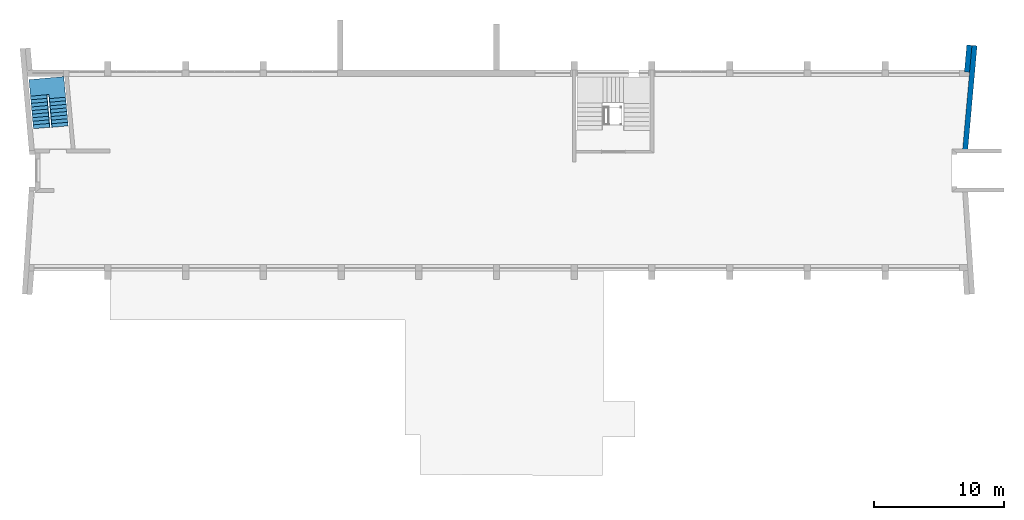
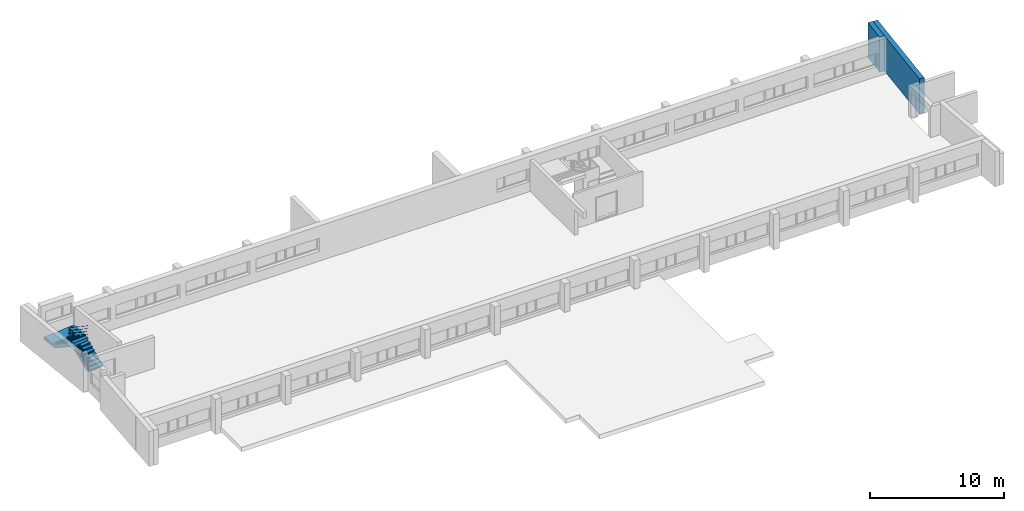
# One storey, part 6 of 10: 2 walls, 1 stair.
"""IFC2X3 building model written with IfcOpenShell, lengths in millimetres."""

import ifcopenshell
import ifcopenshell.guid

model = None  # the IFC model being written
_history = None  # IfcOwnerHistory: only IFC2X3 demands one
_inside = {}  # id of a spatial element -> (the spatial element, [elements in it])
_under = {}  # id of a project, library or spatial element -> (it, [spatial elements below it])
_declared = {}  # id of a project -> (the project, [libraries it declares])
_typed = {}  # id of a type object -> (the type object, [elements of that type])
_made_of = {}  # id of a material, layer set ... -> (it, [elements and type objects made of it])


def new_model(schema):
    """Start an empty IFC model of exactly this schema.

    Asked for "IFC4X3", IfcOpenShell would pick the latest addendum, in which some entities
    have other attributes; the version numbers below select the first issue.
    IFC2X3 requires an IfcOwnerHistory on every rooted entity: one is made here for all.
    """
    global model, _history
    if schema == "IFC4X3":
        model = ifcopenshell.file(schema_version=(4, 3, 0, 0))
    else:
        model = ifcopenshell.file(schema=schema)
    _inside.clear()
    _under.clear()
    _declared.clear()
    _typed.clear()
    _made_of.clear()
    _history = None
    if model.schema == "IFC2X3":
        org = make("IfcOrganization", Name="unknown")
        user = make(
            "IfcPersonAndOrganization",
            ThePerson=make("IfcPerson", FamilyName="unknown"),
            TheOrganization=org,
        )
        app = make(
            "IfcApplication",
            ApplicationDeveloper=org,
            Version="unknown",
            ApplicationFullName="unknown",
            ApplicationIdentifier="unknown",
        )
        _history = make(
            "IfcOwnerHistory",
            OwningUser=user,
            OwningApplication=app,
            ChangeAction="ADDED",
            CreationDate=0,
        )
    return model


def make(cls, **values):
    """One entity of the class cls with the attributes given. An attribute that is None is left unset."""
    return model.create_entity(
        cls, **{name: value for name, value in values.items() if value is not None}
    )


def entity(cls, *values):
    """Any entity or typed value of the class cls, its attributes in the order of the schema. None: left unset."""
    e = model.create_entity(cls)
    for i, value in enumerate(values):
        if value is not None:
            e[i] = value
    return e


def rooted(cls, **values):
    """An entity with a GlobalId (a new one), such as an element, a storey or a relation."""
    return make(cls, GlobalId=ifcopenshell.guid.new(), OwnerHistory=_history, **values)


def si_unit(unit_type, name, prefix=None):
    """IfcSIUnit, for example si_unit("LENGTHUNIT", "METRE", prefix="MILLI")."""
    return make("IfcSIUnit", UnitType=unit_type, Prefix=prefix, Name=name)


def converted_unit(unit_type, name, factor, base, dimensions=None, offset=None):
    """IfcConversionBasedUnit, such as the inch: factor (a typed value) times the base unit."""
    return make(
        "IfcConversionBasedUnit"
        if offset is None
        else "IfcConversionBasedUnitWithOffset",
        ConversionOffset=offset,
        Dimensions=None
        if dimensions is None
        else entity("IfcDimensionalExponents", *dimensions),
        UnitType=unit_type,
        Name=name,
        ConversionFactor=make(
            "IfcMeasureWithUnit", ValueComponent=factor, UnitComponent=base
        ),
    )


def money_unit(currency):
    """IfcMonetaryUnit."""
    return make("IfcMonetaryUnit", Currency=currency)


def assignment(units):
    """IfcUnitAssignment: the units of a project."""
    return None if units is None else make("IfcUnitAssignment", Units=units)


def point(xyz):
    """IfcCartesianPoint."""
    return None if xyz is None else make("IfcCartesianPoint", Coordinates=xyz)


def direction(xyz):
    """IfcDirection."""
    return None if xyz is None else make("IfcDirection", DirectionRatios=xyz)


def frame(location, z_axis=None, x_axis=None):
    """IfcAxis2Placement3D, a coordinate frame: its origin and axes. An axis left out is left unset."""
    return make(
        "IfcAxis2Placement3D",
        Location=point(location),
        Axis=direction(z_axis),
        RefDirection=direction(x_axis),
    )


def origin_with_axes():
    """The frame at (0, 0, 0) with the z axis (0, 0, 1) and the x axis (1, 0, 0) written out."""
    return frame((0.0, 0.0, 0.0), z_axis=(0.0, 0.0, 1.0), x_axis=(1.0, 0.0, 0.0))


def place(relative_to, where):
    """IfcLocalPlacement: puts the frame where relative to a parent placement (None: the world)."""
    return make(
        "IfcLocalPlacement", PlacementRelTo=relative_to, RelativePlacement=where
    )


def context(
    kind, dimensions, precision=None, world=None, true_north=None, identifier=None
):
    """IfcGeometricRepresentationContext, for example the 3D "Model" context."""
    return make(
        "IfcGeometricRepresentationContext",
        ContextIdentifier=identifier,
        ContextType=kind,
        CoordinateSpaceDimension=dimensions,
        Precision=precision,
        WorldCoordinateSystem=world,
        TrueNorth=true_north,
    )


def subcontext(parent, identifier, kind, view, scale=None):
    """IfcGeometricRepresentationSubContext, for example "Body" below "Model"."""
    return make(
        "IfcGeometricRepresentationSubContext",
        ContextIdentifier=identifier,
        ContextType=kind,
        ParentContext=parent,
        TargetScale=scale,
        TargetView=view,
    )


def project(units=None, contexts=None):
    """IfcProject with its units and contexts."""
    return rooted(
        "IfcProject",
        Name="project",
        RepresentationContexts=contexts,
        UnitsInContext=assignment(units),
    )


def spatial(cls, under=None, at=None, **own):
    """A site, building, storey or space (cls), placed at a placement, below another one or the project."""
    s = rooted(cls, ObjectPlacement=at, **own)
    if under is not None:
        _under.setdefault(under.id(), (under, []))[1].append(s)
    return s


def polyline(points):
    """IfcPolyline through the points."""
    return make("IfcPolyline", Points=[point(p) for p in points])


def outline(outer, holes=None, kind="AREA"):
    """IfcArbitraryClosedProfileDef: a profile drawn as a closed curve; with holes, ...WithVoids."""
    if holes is None:
        return make("IfcArbitraryClosedProfileDef", ProfileType=kind, OuterCurve=outer)
    return make(
        "IfcArbitraryProfileDefWithVoids",
        ProfileType=kind,
        OuterCurve=outer,
        InnerCurves=holes,
    )


def extrude(swept, where, along, depth):
    """IfcExtrudedAreaSolid: the profile swept, set in the frame where, extruded along a direction by depth."""
    return make(
        "IfcExtrudedAreaSolid",
        SweptArea=swept,
        Position=where,
        ExtrudedDirection=direction(along),
        Depth=depth,
    )


def faces_of(points, faces, orient=None, outer=None):
    """IfcFace entities. A face is a list of loops; a loop is a list of indices into points, from 0.

    orient and outer hold one flag for each loop. By default every Orientation is true, the
    first loop of a face is its IfcFaceOuterBound and the others are IfcFaceBound.
    """
    made = []
    for i, loops in enumerate(faces):
        bounds = []
        for j, loop in enumerate(loops):
            is_outer = j == 0 if outer is None else outer[i][j]
            bounds.append(
                make(
                    "IfcFaceOuterBound" if is_outer else "IfcFaceBound",
                    Bound=make("IfcPolyLoop", Polygon=[points[k] for k in loop]),
                    Orientation=True if orient is None else orient[i][j],
                )
            )
        made.append(make("IfcFace", Bounds=bounds))
    return made


def faceted_brep(points, faces, orient=None, outer=None, voids=None):
    """IfcFacetedBrep: a solid bounded by flat faces; with voids (closed shells), ...WithVoids."""
    shared = [point(p) for p in points]
    hull = make("IfcClosedShell", CfsFaces=faces_of(shared, faces, orient, outer))
    if voids is None:
        return make("IfcFacetedBrep", Outer=hull)
    return make(
        "IfcFacetedBrepWithVoids",
        Outer=hull,
        Voids=[
            make(cls, CfsFaces=faces_of(shared, fs, o, b)) for cls, fs, o, b in voids
        ],
    )


def shape(context_of_items, identifier, shape_type, items):
    """IfcShapeRepresentation: the items that make up one representation, for example the "Body"."""
    return make(
        "IfcShapeRepresentation",
        ContextOfItems=context_of_items,
        RepresentationIdentifier=identifier,
        RepresentationType=shape_type,
        Items=items,
    )


def source(mapping_origin, context_of_items, identifier, shape_type, items):
    """IfcRepresentationMap: a shape defined once, which mapped items show again and again."""
    return make(
        "IfcRepresentationMap",
        MappingOrigin=mapping_origin,
        MappedRepresentation=shape(context_of_items, identifier, shape_type, items),
    )


def transform(
    local_origin,
    x_axis=None,
    y_axis=None,
    z_axis=None,
    scale=None,
    scale2=None,
    scale3=None,
    uniform=True,
):
    """IfcCartesianTransformationOperator3D, or its non-uniform kind. x_axis, y_axis, z_axis: its Axis1, 2, 3."""
    if uniform:
        return make(
            "IfcCartesianTransformationOperator3D",
            Axis1=direction(x_axis),
            Axis2=direction(y_axis),
            LocalOrigin=point(local_origin),
            Scale=scale,
            Axis3=direction(z_axis),
        )
    return make(
        "IfcCartesianTransformationOperator3DnonUniform",
        Axis1=direction(x_axis),
        Axis2=direction(y_axis),
        LocalOrigin=point(local_origin),
        Scale=scale,
        Axis3=direction(z_axis),
        Scale2=scale2,
        Scale3=scale3,
    )


def mapped(mapping_source, mapping_target):
    """IfcMappedItem: shows the shape of a source again, moved by a transform."""
    return make(
        "IfcMappedItem", MappingSource=mapping_source, MappingTarget=mapping_target
    )


def material(Name=None, Category=None):
    """IfcMaterial."""
    return make("IfcMaterial", Name=Name, Category=Category)


def layer(
    of_material, thickness, ventilated=None, Name=None, Category=None, Priority=None
):
    """IfcMaterialLayer: one layer of a wall or slab, of a material (None: an air gap)."""
    return make(
        "IfcMaterialLayer",
        Material=of_material,
        LayerThickness=thickness,
        IsVentilated=ventilated,
        Name=Name,
        Category=Category,
        Priority=Priority,
    )


def layer_set(layers, Name=None):
    """IfcMaterialLayerSet."""
    return make("IfcMaterialLayerSet", MaterialLayers=layers, LayerSetName=Name)


def layer_usage(for_layer_set, set_direction, sense, offset, extent=None):
    """IfcMaterialLayerSetUsage: how a layer set lies in its element."""
    return make(
        "IfcMaterialLayerSetUsage",
        ForLayerSet=for_layer_set,
        LayerSetDirection=set_direction,
        DirectionSense=sense,
        OffsetFromReferenceLine=offset,
        ReferenceExtent=extent,
    )


def made_of(thing, what):
    """Note that an element or type object is made of a material, layer set ...; save() writes the relation."""
    if what is not None:
        _made_of.setdefault(what.id(), (what, []))[1].append(thing)
    return thing


def type_object(cls, material=None, **own):
    """A type object (cls), such as IfcWallType, which elements share."""
    return made_of(rooted(cls, **own), material)


def element(
    cls,
    number,
    at=None,
    inside=None,
    cuts=None,
    type_object=None,
    material=None,
    context=None,
    identifier="Body",
    shape_type=None,
    held_by="IfcProductDefinitionShape",
    body=None,
    shapes=None,
    **own,
):
    """One element of the class cls, such as IfcWall. Its Tag is "e" and its number.

    at: its placement. inside: the storey or other place that contains it. cuts: it is an
    opening in that element (IfcRelVoidsElement). A single representation is given by context,
    identifier, shape_type and body (its items); several are given by shapes. held_by: the class
    of the entity that holds the representations. save() writes the other relations.
    """
    e = rooted(cls, Tag="e%d" % number, ObjectPlacement=at, **own)
    if body is not None:
        shapes = [shape(context, identifier, shape_type, body)]
    if shapes is not None:
        e.Representation = make(held_by, Representations=shapes)
    if inside is not None:
        _inside.setdefault(inside.id(), (inside, []))[1].append(e)
    if cuts is not None:
        rooted(
            "IfcRelVoidsElement", RelatingBuildingElement=cuts, RelatedOpeningElement=e
        )
    if type_object is not None:
        _typed.setdefault(type_object.id(), (type_object, []))[1].append(e)
    return made_of(e, material)


def aggregate(whole, parts):
    """IfcRelAggregates: a whole, such as a stair, and the parts it consists of."""
    return rooted("IfcRelAggregates", RelatingObject=whole, RelatedObjects=parts)


def save(model, path):
    """Write the relations noted so far, then the file.

    IfcRelAggregates (storeys below a building ...), IfcRelContainedInSpatialStructure (elements
    in a storey), IfcRelDefinesByType, IfcRelAssociatesMaterial and IfcRelDeclares: one each for
    every whole, place, type object, material and project.
    """
    for whole, parts in _under.values():
        aggregate(whole, parts)
    for where, things in _inside.values():
        rooted(
            "IfcRelContainedInSpatialStructure",
            RelatedElements=things,
            RelatingStructure=where,
        )
    for kind, things in _typed.values():
        rooted("IfcRelDefinesByType", RelatedObjects=things, RelatingType=kind)
    for what, things in _made_of.values():
        rooted("IfcRelAssociatesMaterial", RelatedObjects=things, RelatingMaterial=what)
    for by, libraries in _declared.values():
        rooted("IfcRelDeclares", RelatingContext=by, RelatedDefinitions=libraries)
    model.write(path)


model = new_model("IFC2X3")

# Units and contexts
model_context = context("Model", 3, precision=1e-05, world=origin_with_axes(), true_north=direction((0.0, 1.0)))
body_context = subcontext(model_context, "Body", "Model", "MODEL_VIEW")
ifc_project = project(units=[si_unit("LENGTHUNIT", "METRE", prefix="MILLI"), si_unit("AREAUNIT", "SQUARE_METRE"), si_unit("VOLUMEUNIT", "CUBIC_METRE"), converted_unit("PLANEANGLEUNIT", "DEGREE", entity("IfcPlaneAngleMeasure", 0.0174532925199), si_unit("PLANEANGLEUNIT", "RADIAN"), dimensions=[0, 0, 0, 0, 0, 0, 0]), si_unit("SOLIDANGLEUNIT", "STERADIAN"), money_unit("USD"), converted_unit("TIMEUNIT", "Year", entity("IfcTimeMeasure", 31556926.0), si_unit("TIMEUNIT", "SECOND"), dimensions=[0, 0, 0, 0, 0, 0, 0]), si_unit("MASSUNIT", "GRAM"), si_unit("THERMODYNAMICTEMPERATUREUNIT", "DEGREE_CELSIUS"), si_unit("LUMINOUSINTENSITYUNIT", "LUMEN")], contexts=[model_context])

# Site, building, storey
site_placement = place(None, origin_with_axes())
site = spatial("IfcSite", under=ifc_project, at=site_placement, Name="Site", CompositionType="ELEMENT")
building_placement = place(site_placement, origin_with_axes())
building = spatial("IfcBuilding", under=site, at=building_placement, Name="Building", CompositionType="ELEMENT")
storey_placement = place(building_placement, origin_with_axes())
storey = spatial("IfcBuildingStorey", under=building, at=storey_placement, Name="2KORRUS", CompositionType="ELEMENT", Elevation=0.0)

# Walls
ifc_material_1 = material(Name="Olemasolevad seinad tellis, uus viimistlus")
ifc_layer = layer(ifc_material_1, 400.0, ventilated="UNKNOWN")
ifc_layer_set = layer_set([ifc_layer], Name="Olemasolevad seinad tellis, uus viimistlus 400")
ifc_layer_usage_1 = layer_usage(ifc_layer_set, "AXIS2", "POSITIVE", 0.0)
wall_type = type_object("IfcWallType", Name="Olemasolevad seinad tellis, uus viimistlus 400", PredefinedType="NOTDEFINED")
wall_1_placement = place(storey_placement, frame((18220.0063762, -10997.6526712, 0.0), z_axis=(0.0, 0.0, 1.0), x_axis=(0.0895981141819, 0.995978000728, 0.0)))
element("IfcWallStandardCase", 1, at=wall_1_placement, inside=storey, type_object=wall_type, material=ifc_layer_usage_1, Name="vs1", ObjectType="vs1", context=body_context, shape_type="SweptSolid", body=[
    extrude(outline(polyline([(0.0, 0.0), (8262.44926526, 0.0), (8262.44926526, 400.0), (0.0, 400.0), (0.0, 0.0)])), origin_with_axes(), (0.0, 0.0, 1.0), 3200.0),
])
ifc_layer_usage_2 = layer_usage(ifc_layer_set, "AXIS2", "POSITIVE", -400.0)
wall_2_placement = place(storey_placement, frame((17976.4243036, -4776.56621795, 0.0), z_axis=(0.0, 0.0, 1.0), x_axis=(0.0895981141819, 0.995978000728, 0.0)))
element("IfcWallStandardCase", 2, at=wall_2_placement, inside=storey, type_object=wall_type, material=ifc_layer_usage_2, Name="vs1", ObjectType="vs1", context=body_context, shape_type="SweptSolid", body=[
    extrude(outline(polyline([(0.0, -400.0), (2088.20851153, -400.0), (2088.20851153, 0.0), (0.0, 0.0), (0.0, -400.0)])), origin_with_axes(), (0.0, 0.0, 1.0), 3200.0),
])

# Stair
ifc_material_2 = material(Name="50 %")
shared_shape = source(origin_with_axes(), body_context, "Body", "Brep", [
    faceted_brep([(389.572, 0.0, 0.0), (389.572, 1300.0, 0.0), (2561.447, 1300.0, 1340.0), (2561.447, 0.0, 1340.0), (30.0, 0.0, 0.0), (30.0, 1300.0, 0.0), (30.0, 1300.0, 127.778), (307.778, 1300.0, 127.778), (307.778, 1300.0, 305.556), (585.556, 1300.0, 305.556), (585.556, 1300.0, 483.333), (863.333, 1300.0, 483.333), (863.333, 1300.0, 661.111), (1141.111, 1300.0, 661.111), (1141.111, 1300.0, 838.889), (1418.889, 1300.0, 838.889), (1418.889, 1300.0, 1016.667), (1696.667, 1300.0, 1016.667), (1696.667, 1300.0, 1194.444), (1974.444, 1300.0, 1194.444), (1974.444, 1300.0, 1372.222), (2252.222, 1300.0, 1372.222), (2252.222, 1300.0, 1550.0), (2530.0, 1300.0, 1550.0), (3800.0, 1300.0, 1550.0), (3800.0, 1300.0, 1340.0), (3800.0, 0.0, 1340.0), (3800.0, 0.0, 1550.0), (2530.0, 0.0, 1550.0), (2252.222, 0.0, 1550.0), (2252.222, 0.0, 1372.222), (1974.444, 0.0, 1372.222), (1974.444, 0.0, 1194.444), (1696.667, 0.0, 1194.444), (1696.667, 0.0, 1016.667), (1418.889, 0.0, 1016.667), (1418.889, 0.0, 838.889), (1141.111, 0.0, 838.889), (1141.111, 0.0, 661.111), (863.333, 0.0, 661.111), (863.333, 0.0, 483.333), (585.556, 0.0, 483.333), (585.556, 0.0, 305.556), (307.778, 0.0, 305.556), (307.778, 0.0, 127.778), (30.0, 0.0, 127.778)], [[[0, 1, 2, 3]], [[4, 5, 1, 0]], [[1, 5, 6, 7, 8, 9, 10, 11, 12, 13, 14, 15, 16, 17, 18, 19, 20, 21, 22, 23, 24, 25, 2]], [[3, 2, 25, 26]], [[0, 3, 26, 27, 28, 29, 30, 31, 32, 33, 34, 35, 36, 37, 38, 39, 40, 41, 42, 43, 44, 45, 4]], [[45, 6, 5, 4]], [[44, 7, 6, 45]], [[43, 8, 7, 44]], [[42, 9, 8, 43]], [[41, 10, 9, 42]], [[40, 11, 10, 41]], [[39, 12, 11, 40]], [[38, 13, 12, 39]], [[37, 14, 13, 38]], [[36, 15, 14, 37]], [[35, 16, 15, 36]], [[34, 17, 16, 35]], [[33, 18, 17, 34]], [[32, 19, 18, 33]], [[31, 20, 19, 32]], [[30, 21, 20, 31]], [[29, 22, 21, 30]], [[28, 23, 22, 29]], [[27, 24, 23, 28]], [[26, 25, 24, 27]]]),
    faceted_brep([(2500.0, 1300.0, 1550.0), (2500.0, 1400.0, 1550.0), (2500.0, 1400.0, 1340.0), (2500.0, 1300.0, 1340.0), (3800.0, 1300.0, 1550.0), (3800.0, 1400.0, 1550.0), (3800.0, 1400.0, 1340.0), (2561.447, 1400.0, 1340.0), (2561.447, 1300.0, 1340.0), (3800.0, 1300.0, 1340.0)], [[[0, 1, 2, 3]], [[4, 5, 1, 0]], [[1, 5, 6, 7, 2]], [[3, 2, 7, 8]], [[0, 3, 8, 9, 4]], [[9, 6, 5, 4]], [[8, 7, 6, 9]]]),
    faceted_brep([(2500.0, 1400.0, 1550.0), (2500.0, 2700.0, 1550.0), (2500.0, 2700.0, 1340.0), (2500.0, 1400.0, 1340.0), (3800.0, 1400.0, 1550.0), (3800.0, 2700.0, 1550.0), (3800.0, 2700.0, 1340.0), (3800.0, 1400.0, 1340.0)], [[[0, 1, 2, 3]], [[4, 5, 1, 0]], [[1, 5, 6, 2]], [[3, 2, 6, 7]], [[0, 3, 7, 4]], [[7, 6, 5, 4]]]),
    faceted_brep([(2500.0, 1400.0, 1340.0), (2438.553, 1400.0, 1340.0), (2438.553, 2700.0, 1340.0), (2500.0, 2700.0, 1340.0), (2500.0, 1400.0, 1550.0), (2470.0, 1400.0, 1550.0), (2470.0, 1400.0, 1727.778), (2192.222, 1400.0, 1727.778), (2192.222, 1400.0, 1905.556), (1914.444, 1400.0, 1905.556), (1914.444, 1400.0, 2083.333), (1636.667, 1400.0, 2083.333), (1636.667, 1400.0, 2261.111), (1358.889, 1400.0, 2261.111), (1358.889, 1400.0, 2438.889), (1081.111, 1400.0, 2438.889), (1081.111, 1400.0, 2616.667), (803.333, 1400.0, 2616.667), (803.333, 1400.0, 2794.444), (525.556, 1400.0, 2794.444), (525.556, 1400.0, 2972.222), (247.778, 1400.0, 2972.222), (247.778, 1400.0, 3150.0), (0.0, 1400.0, 3150.0), (0.0, 1400.0, 2900.674), (0.0, 2700.0, 2900.674), (0.0, 2700.0, 3150.0), (247.778, 2700.0, 3150.0), (247.778, 2700.0, 2972.222), (525.556, 2700.0, 2972.222), (525.556, 2700.0, 2794.444), (803.333, 2700.0, 2794.444), (803.333, 2700.0, 2616.667), (1081.111, 2700.0, 2616.667), (1081.111, 2700.0, 2438.889), (1358.889, 2700.0, 2438.889), (1358.889, 2700.0, 2261.111), (1636.667, 2700.0, 2261.111), (1636.667, 2700.0, 2083.333), (1914.444, 2700.0, 2083.333), (1914.444, 2700.0, 1905.556), (2192.222, 2700.0, 1905.556), (2192.222, 2700.0, 1727.778), (2470.0, 2700.0, 1727.778), (2470.0, 2700.0, 1550.0), (2500.0, 2700.0, 1550.0)], [[[0, 1, 2, 3]], [[0, 4, 5, 6, 7, 8, 9, 10, 11, 12, 13, 14, 15, 16, 17, 18, 19, 20, 21, 22, 23, 24, 1]], [[1, 24, 25, 2]], [[3, 2, 25, 26, 27, 28, 29, 30, 31, 32, 33, 34, 35, 36, 37, 38, 39, 40, 41, 42, 43, 44, 45]], [[4, 0, 3, 45]], [[5, 4, 45, 44]], [[6, 5, 44, 43]], [[7, 6, 43, 42]], [[8, 7, 42, 41]], [[9, 8, 41, 40]], [[10, 9, 40, 39]], [[11, 10, 39, 38]], [[12, 11, 38, 37]], [[13, 12, 37, 36]], [[14, 13, 36, 35]], [[15, 14, 35, 34]], [[16, 15, 34, 33]], [[17, 16, 33, 32]], [[18, 17, 32, 31]], [[19, 18, 31, 30]], [[20, 19, 30, 29]], [[21, 20, 29, 28]], [[22, 21, 28, 27]], [[23, 22, 27, 26]], [[24, 23, 26, 25]]]),
    faceted_brep([(0.0, 0.0, 0.0), (0.0, 1300.0, 0.0), (30.0, 1300.0, 0.0), (30.0, 0.0, 0.0), (0.0, 0.0, 127.778), (0.0, 1300.0, 127.778), (30.0, 1300.0, 127.778), (30.0, 0.0, 127.778)], [[[0, 1, 2, 3]], [[4, 5, 1, 0]], [[1, 5, 6, 2]], [[3, 2, 6, 7]], [[0, 3, 7, 4]], [[7, 6, 5, 4]]]),
    faceted_brep([(277.778, 0.0, 177.778), (277.778, 1300.0, 177.778), (307.778, 1300.0, 177.778), (307.778, 0.0, 177.778), (277.778, 0.0, 305.556), (277.778, 1300.0, 305.556), (307.778, 1300.0, 305.556), (307.778, 0.0, 305.556)], [[[0, 1, 2, 3]], [[4, 5, 1, 0]], [[1, 5, 6, 2]], [[3, 2, 6, 7]], [[0, 3, 7, 4]], [[7, 6, 5, 4]]]),
    faceted_brep([(555.556, 0.0, 355.556), (555.556, 1300.0, 355.556), (585.556, 1300.0, 355.556), (585.556, 0.0, 355.556), (555.556, 0.0, 483.333), (555.556, 1300.0, 483.333), (585.556, 1300.0, 483.333), (585.556, 0.0, 483.333)], [[[0, 1, 2, 3]], [[4, 5, 1, 0]], [[1, 5, 6, 2]], [[3, 2, 6, 7]], [[0, 3, 7, 4]], [[7, 6, 5, 4]]]),
    faceted_brep([(833.333, 0.0, 533.333), (833.333, 1300.0, 533.333), (863.333, 1300.0, 533.333), (863.333, 0.0, 533.333), (833.333, 0.0, 661.111), (833.333, 1300.0, 661.111), (863.333, 1300.0, 661.111), (863.333, 0.0, 661.111)], [[[0, 1, 2, 3]], [[4, 5, 1, 0]], [[1, 5, 6, 2]], [[3, 2, 6, 7]], [[0, 3, 7, 4]], [[7, 6, 5, 4]]]),
    faceted_brep([(1111.111, 0.0, 711.111), (1111.111, 1300.0, 711.111), (1141.111, 1300.0, 711.111), (1141.111, 0.0, 711.111), (1111.111, 0.0, 838.889), (1111.111, 1300.0, 838.889), (1141.111, 1300.0, 838.889), (1141.111, 0.0, 838.889)], [[[0, 1, 2, 3]], [[4, 5, 1, 0]], [[1, 5, 6, 2]], [[3, 2, 6, 7]], [[0, 3, 7, 4]], [[7, 6, 5, 4]]]),
    faceted_brep([(1388.889, 0.0, 888.889), (1388.889, 1300.0, 888.889), (1418.889, 1300.0, 888.889), (1418.889, 0.0, 888.889), (1388.889, 0.0, 1016.667), (1388.889, 1300.0, 1016.667), (1418.889, 1300.0, 1016.667), (1418.889, 0.0, 1016.667)], [[[0, 1, 2, 3]], [[4, 5, 1, 0]], [[1, 5, 6, 2]], [[3, 2, 6, 7]], [[0, 3, 7, 4]], [[7, 6, 5, 4]]]),
    faceted_brep([(1666.667, 0.0, 1066.667), (1666.667, 1300.0, 1066.667), (1696.667, 1300.0, 1066.667), (1696.667, 0.0, 1066.667), (1666.667, 0.0, 1194.444), (1666.667, 1300.0, 1194.444), (1696.667, 1300.0, 1194.444), (1696.667, 0.0, 1194.444)], [[[0, 1, 2, 3]], [[4, 5, 1, 0]], [[1, 5, 6, 2]], [[3, 2, 6, 7]], [[0, 3, 7, 4]], [[7, 6, 5, 4]]]),
    faceted_brep([(1944.444, 0.0, 1244.444), (1944.444, 1300.0, 1244.444), (1974.444, 1300.0, 1244.444), (1974.444, 0.0, 1244.444), (1944.444, 0.0, 1372.222), (1944.444, 1300.0, 1372.222), (1974.444, 1300.0, 1372.222), (1974.444, 0.0, 1372.222)], [[[0, 1, 2, 3]], [[4, 5, 1, 0]], [[1, 5, 6, 2]], [[3, 2, 6, 7]], [[0, 3, 7, 4]], [[7, 6, 5, 4]]]),
    faceted_brep([(2222.222, 0.0, 1422.222), (2222.222, 1300.0, 1422.222), (2252.222, 1300.0, 1422.222), (2252.222, 0.0, 1422.222), (2222.222, 0.0, 1550.0), (2222.222, 1300.0, 1550.0), (2252.222, 1300.0, 1550.0), (2252.222, 0.0, 1550.0)], [[[0, 1, 2, 3]], [[4, 5, 1, 0]], [[1, 5, 6, 2]], [[3, 2, 6, 7]], [[0, 3, 7, 4]], [[7, 6, 5, 4]]]),
    faceted_brep([(2500.0, 1400.0, 1600.0), (2470.0, 1400.0, 1600.0), (2470.0, 2700.0, 1600.0), (2500.0, 2700.0, 1600.0), (2500.0, 1400.0, 1727.778), (2470.0, 1400.0, 1727.778), (2470.0, 2700.0, 1727.778), (2500.0, 2700.0, 1727.778)], [[[0, 1, 2, 3]], [[0, 4, 5, 1]], [[1, 5, 6, 2]], [[3, 2, 6, 7]], [[4, 0, 3, 7]], [[5, 4, 7, 6]]]),
    faceted_brep([(2222.222, 1400.0, 1777.778), (2192.222, 1400.0, 1777.778), (2192.222, 2700.0, 1777.778), (2222.222, 2700.0, 1777.778), (2222.222, 1400.0, 1905.556), (2192.222, 1400.0, 1905.556), (2192.222, 2700.0, 1905.556), (2222.222, 2700.0, 1905.556)], [[[0, 1, 2, 3]], [[0, 4, 5, 1]], [[1, 5, 6, 2]], [[3, 2, 6, 7]], [[4, 0, 3, 7]], [[5, 4, 7, 6]]]),
    faceted_brep([(1944.444, 1400.0, 1955.556), (1914.444, 1400.0, 1955.556), (1914.444, 2700.0, 1955.556), (1944.444, 2700.0, 1955.556), (1944.444, 1400.0, 2083.333), (1914.444, 1400.0, 2083.333), (1914.444, 2700.0, 2083.333), (1944.444, 2700.0, 2083.333)], [[[0, 1, 2, 3]], [[0, 4, 5, 1]], [[1, 5, 6, 2]], [[3, 2, 6, 7]], [[4, 0, 3, 7]], [[5, 4, 7, 6]]]),
    faceted_brep([(1666.667, 1400.0, 2133.333), (1636.667, 1400.0, 2133.333), (1636.667, 2700.0, 2133.333), (1666.667, 2700.0, 2133.333), (1666.667, 1400.0, 2261.111), (1636.667, 1400.0, 2261.111), (1636.667, 2700.0, 2261.111), (1666.667, 2700.0, 2261.111)], [[[0, 1, 2, 3]], [[0, 4, 5, 1]], [[1, 5, 6, 2]], [[3, 2, 6, 7]], [[4, 0, 3, 7]], [[5, 4, 7, 6]]]),
    faceted_brep([(1388.889, 1400.0, 2311.111), (1358.889, 1400.0, 2311.111), (1358.889, 2700.0, 2311.111), (1388.889, 2700.0, 2311.111), (1388.889, 1400.0, 2438.889), (1358.889, 1400.0, 2438.889), (1358.889, 2700.0, 2438.889), (1388.889, 2700.0, 2438.889)], [[[0, 1, 2, 3]], [[0, 4, 5, 1]], [[1, 5, 6, 2]], [[3, 2, 6, 7]], [[4, 0, 3, 7]], [[5, 4, 7, 6]]]),
    faceted_brep([(1111.111, 1400.0, 2488.889), (1081.111, 1400.0, 2488.889), (1081.111, 2700.0, 2488.889), (1111.111, 2700.0, 2488.889), (1111.111, 1400.0, 2616.667), (1081.111, 1400.0, 2616.667), (1081.111, 2700.0, 2616.667), (1111.111, 2700.0, 2616.667)], [[[0, 1, 2, 3]], [[0, 4, 5, 1]], [[1, 5, 6, 2]], [[3, 2, 6, 7]], [[4, 0, 3, 7]], [[5, 4, 7, 6]]]),
    faceted_brep([(833.333, 1400.0, 2666.667), (803.333, 1400.0, 2666.667), (803.333, 2700.0, 2666.667), (833.333, 2700.0, 2666.667), (833.333, 1400.0, 2794.444), (803.333, 1400.0, 2794.444), (803.333, 2700.0, 2794.444), (833.333, 2700.0, 2794.444)], [[[0, 1, 2, 3]], [[0, 4, 5, 1]], [[1, 5, 6, 2]], [[3, 2, 6, 7]], [[4, 0, 3, 7]], [[5, 4, 7, 6]]]),
    faceted_brep([(555.556, 1400.0, 2844.444), (525.556, 1400.0, 2844.444), (525.556, 2700.0, 2844.444), (555.556, 2700.0, 2844.444), (555.556, 1400.0, 2972.222), (525.556, 1400.0, 2972.222), (525.556, 2700.0, 2972.222), (555.556, 2700.0, 2972.222)], [[[0, 1, 2, 3]], [[0, 4, 5, 1]], [[1, 5, 6, 2]], [[3, 2, 6, 7]], [[4, 0, 3, 7]], [[5, 4, 7, 6]]]),
    faceted_brep([(277.778, 1400.0, 3022.222), (247.778, 1400.0, 3022.222), (247.778, 2700.0, 3022.222), (277.778, 2700.0, 3022.222), (277.778, 1400.0, 3150.0), (247.778, 1400.0, 3150.0), (247.778, 2700.0, 3150.0), (277.778, 2700.0, 3150.0)], [[[0, 1, 2, 3]], [[0, 4, 5, 1]], [[1, 5, 6, 2]], [[3, 2, 6, 7]], [[4, 0, 3, 7]], [[5, 4, 7, 6]]]),
    faceted_brep([(-20.0, 0.0, 127.778), (-20.0, 1300.0, 127.778), (307.778, 1300.0, 127.778), (307.778, 0.0, 127.778), (-20.0, 0.0, 177.778), (-20.0, 1300.0, 177.778), (307.778, 1300.0, 177.778), (307.778, 0.0, 177.778)], [[[0, 1, 2, 3]], [[4, 5, 1, 0]], [[1, 5, 6, 2]], [[3, 2, 6, 7]], [[0, 3, 7, 4]], [[7, 6, 5, 4]]]),
    faceted_brep([(257.778, 0.0, 305.556), (257.778, 1300.0, 305.556), (585.556, 1300.0, 305.556), (585.556, 0.0, 305.556), (257.778, 0.0, 355.556), (257.778, 1300.0, 355.556), (585.556, 1300.0, 355.556), (585.556, 0.0, 355.556)], [[[0, 1, 2, 3]], [[4, 5, 1, 0]], [[1, 5, 6, 2]], [[3, 2, 6, 7]], [[0, 3, 7, 4]], [[7, 6, 5, 4]]]),
    faceted_brep([(535.556, 0.0, 483.333), (535.556, 1300.0, 483.333), (863.333, 1300.0, 483.333), (863.333, 0.0, 483.333), (535.556, 0.0, 533.333), (535.556, 1300.0, 533.333), (863.333, 1300.0, 533.333), (863.333, 0.0, 533.333)], [[[0, 1, 2, 3]], [[4, 5, 1, 0]], [[1, 5, 6, 2]], [[3, 2, 6, 7]], [[0, 3, 7, 4]], [[7, 6, 5, 4]]]),
    faceted_brep([(813.333, 0.0, 661.111), (813.333, 1300.0, 661.111), (1141.111, 1300.0, 661.111), (1141.111, 0.0, 661.111), (813.333, 0.0, 711.111), (813.333, 1300.0, 711.111), (1141.111, 1300.0, 711.111), (1141.111, 0.0, 711.111)], [[[0, 1, 2, 3]], [[4, 5, 1, 0]], [[1, 5, 6, 2]], [[3, 2, 6, 7]], [[0, 3, 7, 4]], [[7, 6, 5, 4]]]),
    faceted_brep([(1091.111, 0.0, 838.889), (1091.111, 1300.0, 838.889), (1418.889, 1300.0, 838.889), (1418.889, 0.0, 838.889), (1091.111, 0.0, 888.889), (1091.111, 1300.0, 888.889), (1418.889, 1300.0, 888.889), (1418.889, 0.0, 888.889)], [[[0, 1, 2, 3]], [[4, 5, 1, 0]], [[1, 5, 6, 2]], [[3, 2, 6, 7]], [[0, 3, 7, 4]], [[7, 6, 5, 4]]]),
    faceted_brep([(1368.889, 0.0, 1016.667), (1368.889, 1300.0, 1016.667), (1696.667, 1300.0, 1016.667), (1696.667, 0.0, 1016.667), (1368.889, 0.0, 1066.667), (1368.889, 1300.0, 1066.667), (1696.667, 1300.0, 1066.667), (1696.667, 0.0, 1066.667)], [[[0, 1, 2, 3]], [[4, 5, 1, 0]], [[1, 5, 6, 2]], [[3, 2, 6, 7]], [[0, 3, 7, 4]], [[7, 6, 5, 4]]]),
    faceted_brep([(1646.667, 0.0, 1194.444), (1646.667, 1300.0, 1194.444), (1974.444, 1300.0, 1194.444), (1974.444, 0.0, 1194.444), (1646.667, 0.0, 1244.444), (1646.667, 1300.0, 1244.444), (1974.444, 1300.0, 1244.444), (1974.444, 0.0, 1244.444)], [[[0, 1, 2, 3]], [[4, 5, 1, 0]], [[1, 5, 6, 2]], [[3, 2, 6, 7]], [[0, 3, 7, 4]], [[7, 6, 5, 4]]]),
    faceted_brep([(1924.444, 0.0, 1372.222), (1924.444, 1300.0, 1372.222), (2252.222, 1300.0, 1372.222), (2252.222, 0.0, 1372.222), (1924.444, 0.0, 1422.222), (1924.444, 1300.0, 1422.222), (2252.222, 1300.0, 1422.222), (2252.222, 0.0, 1422.222)], [[[0, 1, 2, 3]], [[4, 5, 1, 0]], [[1, 5, 6, 2]], [[3, 2, 6, 7]], [[0, 3, 7, 4]], [[7, 6, 5, 4]]]),
    faceted_brep([(2202.222, 0.0, 1550.0), (2202.222, 1300.0, 1550.0), (2500.0, 1300.0, 1550.0), (2500.0, 0.0, 1550.0), (2202.222, 0.0, 1600.0), (2202.222, 1300.0, 1600.0), (2500.0, 1300.0, 1600.0), (2500.0, 0.0, 1600.0)], [[[0, 1, 2, 3]], [[4, 5, 1, 0]], [[1, 5, 6, 2]], [[3, 2, 6, 7]], [[0, 3, 7, 4]], [[7, 6, 5, 4]]]),
    faceted_brep([(3800.0, 0.0, 1550.0), (3800.0, 1400.0, 1550.0), (3800.0, 1400.0, 1600.0), (3800.0, 0.0, 1600.0), (2500.0, 0.0, 1550.0), (2500.0, 1400.0, 1550.0), (2500.0, 1400.0, 1600.0), (2500.0, 0.0, 1600.0)], [[[0, 1, 2, 3]], [[4, 5, 1, 0]], [[1, 5, 6, 2]], [[3, 2, 6, 7]], [[0, 3, 7, 4]], [[7, 6, 5, 4]]]),
    faceted_brep([(3800.0, 1400.0, 1550.0), (3800.0, 2700.0, 1550.0), (3800.0, 2700.0, 1600.0), (3800.0, 1400.0, 1600.0), (2470.0, 1400.0, 1550.0), (2470.0, 2700.0, 1550.0), (2470.0, 2700.0, 1600.0), (2470.0, 1400.0, 1600.0)], [[[0, 1, 2, 3]], [[4, 5, 1, 0]], [[1, 5, 6, 2]], [[3, 2, 6, 7]], [[0, 3, 7, 4]], [[7, 6, 5, 4]]]),
    faceted_brep([(2520.0, 1400.0, 1727.778), (2192.222, 1400.0, 1727.778), (2192.222, 2700.0, 1727.778), (2520.0, 2700.0, 1727.778), (2520.0, 1400.0, 1777.778), (2192.222, 1400.0, 1777.778), (2192.222, 2700.0, 1777.778), (2520.0, 2700.0, 1777.778)], [[[0, 1, 2, 3]], [[0, 4, 5, 1]], [[1, 5, 6, 2]], [[3, 2, 6, 7]], [[4, 0, 3, 7]], [[5, 4, 7, 6]]]),
    faceted_brep([(2242.222, 1400.0, 1905.556), (1914.444, 1400.0, 1905.556), (1914.444, 2700.0, 1905.556), (2242.222, 2700.0, 1905.556), (2242.222, 1400.0, 1955.556), (1914.444, 1400.0, 1955.556), (1914.444, 2700.0, 1955.556), (2242.222, 2700.0, 1955.556)], [[[0, 1, 2, 3]], [[0, 4, 5, 1]], [[1, 5, 6, 2]], [[3, 2, 6, 7]], [[4, 0, 3, 7]], [[5, 4, 7, 6]]]),
    faceted_brep([(1964.444, 1400.0, 2083.333), (1636.667, 1400.0, 2083.333), (1636.667, 2700.0, 2083.333), (1964.444, 2700.0, 2083.333), (1964.444, 1400.0, 2133.333), (1636.667, 1400.0, 2133.333), (1636.667, 2700.0, 2133.333), (1964.444, 2700.0, 2133.333)], [[[0, 1, 2, 3]], [[0, 4, 5, 1]], [[1, 5, 6, 2]], [[3, 2, 6, 7]], [[4, 0, 3, 7]], [[5, 4, 7, 6]]]),
    faceted_brep([(1686.667, 1400.0, 2261.111), (1358.889, 1400.0, 2261.111), (1358.889, 2700.0, 2261.111), (1686.667, 2700.0, 2261.111), (1686.667, 1400.0, 2311.111), (1358.889, 1400.0, 2311.111), (1358.889, 2700.0, 2311.111), (1686.667, 2700.0, 2311.111)], [[[0, 1, 2, 3]], [[0, 4, 5, 1]], [[1, 5, 6, 2]], [[3, 2, 6, 7]], [[4, 0, 3, 7]], [[5, 4, 7, 6]]]),
    faceted_brep([(1408.889, 1400.0, 2438.889), (1081.111, 1400.0, 2438.889), (1081.111, 2700.0, 2438.889), (1408.889, 2700.0, 2438.889), (1408.889, 1400.0, 2488.889), (1081.111, 1400.0, 2488.889), (1081.111, 2700.0, 2488.889), (1408.889, 2700.0, 2488.889)], [[[0, 1, 2, 3]], [[0, 4, 5, 1]], [[1, 5, 6, 2]], [[3, 2, 6, 7]], [[4, 0, 3, 7]], [[5, 4, 7, 6]]]),
    faceted_brep([(1131.111, 1400.0, 2616.667), (803.333, 1400.0, 2616.667), (803.333, 2700.0, 2616.667), (1131.111, 2700.0, 2616.667), (1131.111, 1400.0, 2666.667), (803.333, 1400.0, 2666.667), (803.333, 2700.0, 2666.667), (1131.111, 2700.0, 2666.667)], [[[0, 1, 2, 3]], [[0, 4, 5, 1]], [[1, 5, 6, 2]], [[3, 2, 6, 7]], [[4, 0, 3, 7]], [[5, 4, 7, 6]]]),
    faceted_brep([(853.333, 1400.0, 2794.444), (525.556, 1400.0, 2794.444), (525.556, 2700.0, 2794.444), (853.333, 2700.0, 2794.444), (853.333, 1400.0, 2844.444), (525.556, 1400.0, 2844.444), (525.556, 2700.0, 2844.444), (853.333, 2700.0, 2844.444)], [[[0, 1, 2, 3]], [[0, 4, 5, 1]], [[1, 5, 6, 2]], [[3, 2, 6, 7]], [[4, 0, 3, 7]], [[5, 4, 7, 6]]]),
    faceted_brep([(575.556, 1400.0, 2972.222), (247.778, 1400.0, 2972.222), (247.778, 2700.0, 2972.222), (575.556, 2700.0, 2972.222), (575.556, 1400.0, 3022.222), (247.778, 1400.0, 3022.222), (247.778, 2700.0, 3022.222), (575.556, 2700.0, 3022.222)], [[[0, 1, 2, 3]], [[0, 4, 5, 1]], [[1, 5, 6, 2]], [[3, 2, 6, 7]], [[4, 0, 3, 7]], [[5, 4, 7, 6]]]),
    faceted_brep([(297.778, 1400.0, 3150.0), (0.0, 1400.0, 3150.0), (0.0, 2700.0, 3150.0), (297.778, 2700.0, 3150.0), (297.778, 1400.0, 3200.0), (0.0, 1400.0, 3200.0), (0.0, 2700.0, 3200.0), (297.778, 2700.0, 3200.0)], [[[0, 1, 2, 3]], [[0, 4, 5, 1]], [[1, 5, 6, 2]], [[3, 2, 6, 7]], [[4, 0, 3, 7]], [[5, 4, 7, 6]]]),
    faceted_brep([(0.0, 1260.0, 277.778), (0.0, 1300.0, 277.778), (2222.222, 1300.0, 1700.0), (2222.222, 1260.0, 1700.0), (0.0, 1260.0, 297.778), (0.0, 1300.0, 297.778), (2222.222, 1300.0, 1720.0), (2222.222, 1260.0, 1720.0)], [[[0, 1, 2, 3]], [[4, 5, 1, 0]], [[1, 5, 6, 2]], [[3, 2, 6, 7]], [[0, 3, 7, 4]], [[7, 6, 5, 4]]]),
    faceted_brep([(0.0, 1260.0, 537.778), (0.0, 1300.0, 537.778), (2222.222, 1300.0, 1960.0), (2222.222, 1260.0, 1960.0), (0.0, 1260.0, 557.778), (0.0, 1300.0, 557.778), (2222.222, 1300.0, 1980.0), (2222.222, 1260.0, 1980.0)], [[[0, 1, 2, 3]], [[4, 5, 1, 0]], [[1, 5, 6, 2]], [[3, 2, 6, 7]], [[0, 3, 7, 4]], [[7, 6, 5, 4]]]),
    faceted_brep([(0.0, 1260.0, 797.778), (0.0, 1300.0, 797.778), (2222.222, 1300.0, 2220.0), (2222.222, 1260.0, 2220.0), (0.0, 1260.0, 817.778), (0.0, 1300.0, 817.778), (2222.222, 1300.0, 2240.0), (2222.222, 1260.0, 2240.0)], [[[0, 1, 2, 3]], [[4, 5, 1, 0]], [[1, 5, 6, 2]], [[3, 2, 6, 7]], [[0, 3, 7, 4]], [[7, 6, 5, 4]]]),
    faceted_brep([(0.0, 1260.0, 1057.778), (0.0, 1300.0, 1057.778), (2222.222, 1300.0, 2480.0), (2222.222, 1260.0, 2480.0), (0.0, 1260.0, 1077.778), (0.0, 1300.0, 1077.778), (2222.222, 1300.0, 2500.0), (2222.222, 1260.0, 2500.0)], [[[0, 1, 2, 3]], [[4, 5, 1, 0]], [[1, 5, 6, 2]], [[3, 2, 6, 7]], [[0, 3, 7, 4]], [[7, 6, 5, 4]]]),
    faceted_brep([(2222.222, 1260.0, 1700.0), (2222.222, 1260.0, 1720.0), (2222.222, 1300.0, 1720.0), (2222.222, 1300.0, 1700.0), (2500.0, 1260.0, 1700.0), (2500.0, 1260.0, 1720.0), (2500.0, 1300.0, 1720.0), (2500.0, 1300.0, 1700.0)], [[[0, 1, 2, 3]], [[4, 5, 1, 0]], [[1, 5, 6, 2]], [[3, 2, 6, 7]], [[0, 3, 7, 4]], [[7, 6, 5, 4]]]),
    faceted_brep([(2222.222, 1260.0, 1960.0), (2222.222, 1260.0, 1980.0), (2222.222, 1300.0, 1980.0), (2222.222, 1300.0, 1960.0), (2500.0, 1260.0, 1960.0), (2500.0, 1260.0, 1980.0), (2500.0, 1300.0, 1980.0), (2500.0, 1300.0, 1960.0)], [[[0, 1, 2, 3]], [[4, 5, 1, 0]], [[1, 5, 6, 2]], [[3, 2, 6, 7]], [[0, 3, 7, 4]], [[7, 6, 5, 4]]]),
    faceted_brep([(2222.222, 1260.0, 2220.0), (2222.222, 1260.0, 2240.0), (2222.222, 1300.0, 2240.0), (2222.222, 1300.0, 2220.0), (2500.0, 1260.0, 2220.0), (2500.0, 1260.0, 2240.0), (2500.0, 1300.0, 2240.0), (2500.0, 1300.0, 2220.0)], [[[0, 1, 2, 3]], [[4, 5, 1, 0]], [[1, 5, 6, 2]], [[3, 2, 6, 7]], [[0, 3, 7, 4]], [[7, 6, 5, 4]]]),
    faceted_brep([(2222.222, 1260.0, 2480.0), (2222.222, 1260.0, 2500.0), (2222.222, 1300.0, 2500.0), (2222.222, 1300.0, 2480.0), (2500.0, 1260.0, 2480.0), (2500.0, 1260.0, 2500.0), (2500.0, 1300.0, 2500.0), (2500.0, 1300.0, 2480.0)], [[[0, 1, 2, 3]], [[4, 5, 1, 0]], [[1, 5, 6, 2]], [[3, 2, 6, 7]], [[0, 3, 7, 4]], [[7, 6, 5, 4]]]),
    faceted_brep([(2540.0, 1260.0, 1700.0), (2500.0, 1260.0, 1700.0), (2500.0, 1400.0, 1852.178), (2540.0, 1400.0, 1852.178), (2540.0, 1260.0, 1720.0), (2500.0, 1260.0, 1720.0), (2500.0, 1400.0, 1872.178), (2540.0, 1400.0, 1872.178)], [[[0, 1, 2, 3]], [[4, 5, 1, 0]], [[1, 5, 6, 2]], [[3, 2, 6, 7]], [[0, 3, 7, 4]], [[7, 6, 5, 4]]]),
    faceted_brep([(2540.0, 1260.0, 1960.0), (2500.0, 1260.0, 1960.0), (2500.0, 1400.0, 2112.178), (2540.0, 1400.0, 2112.178), (2540.0, 1260.0, 1980.0), (2500.0, 1260.0, 1980.0), (2500.0, 1400.0, 2132.178), (2540.0, 1400.0, 2132.178)], [[[0, 1, 2, 3]], [[4, 5, 1, 0]], [[1, 5, 6, 2]], [[3, 2, 6, 7]], [[0, 3, 7, 4]], [[7, 6, 5, 4]]]),
    faceted_brep([(2540.0, 1260.0, 2220.0), (2500.0, 1260.0, 2220.0), (2500.0, 1400.0, 2372.178), (2540.0, 1400.0, 2372.178), (2540.0, 1260.0, 2240.0), (2500.0, 1260.0, 2240.0), (2500.0, 1400.0, 2392.178), (2540.0, 1400.0, 2392.178)], [[[0, 1, 2, 3]], [[4, 5, 1, 0]], [[1, 5, 6, 2]], [[3, 2, 6, 7]], [[0, 3, 7, 4]], [[7, 6, 5, 4]]]),
    faceted_brep([(2540.0, 1260.0, 2480.0), (2500.0, 1260.0, 2480.0), (2500.0, 1400.0, 2632.178), (2540.0, 1400.0, 2632.178), (2540.0, 1260.0, 2500.0), (2500.0, 1260.0, 2500.0), (2500.0, 1400.0, 2652.178), (2540.0, 1400.0, 2652.178)], [[[0, 1, 2, 3]], [[4, 5, 1, 0]], [[1, 5, 6, 2]], [[3, 2, 6, 7]], [[0, 3, 7, 4]], [[7, 6, 5, 4]]]),
    faceted_brep([(2540.0, 1440.0, 1852.178), (2540.0, 1400.0, 1852.178), (0.0, 1400.0, 3477.778), (0.0, 1440.0, 3477.778), (2540.0, 1440.0, 1872.178), (2540.0, 1400.0, 1872.178), (0.0, 1400.0, 3497.778), (0.0, 1440.0, 3497.778)], [[[0, 1, 2, 3]], [[4, 5, 1, 0]], [[1, 5, 6, 2]], [[3, 2, 6, 7]], [[0, 3, 7, 4]], [[7, 6, 5, 4]]]),
    faceted_brep([(2540.0, 1440.0, 2112.178), (2540.0, 1400.0, 2112.178), (0.0, 1400.0, 3737.778), (0.0, 1440.0, 3737.778), (2540.0, 1440.0, 2132.178), (2540.0, 1400.0, 2132.178), (0.0, 1400.0, 3757.778), (0.0, 1440.0, 3757.778)], [[[0, 1, 2, 3]], [[4, 5, 1, 0]], [[1, 5, 6, 2]], [[3, 2, 6, 7]], [[0, 3, 7, 4]], [[7, 6, 5, 4]]]),
    faceted_brep([(2540.0, 1440.0, 2372.178), (2540.0, 1400.0, 2372.178), (0.0, 1400.0, 3997.778), (0.0, 1440.0, 3997.778), (2540.0, 1440.0, 2392.178), (2540.0, 1400.0, 2392.178), (0.0, 1400.0, 4017.778), (0.0, 1440.0, 4017.778)], [[[0, 1, 2, 3]], [[4, 5, 1, 0]], [[1, 5, 6, 2]], [[3, 2, 6, 7]], [[0, 3, 7, 4]], [[7, 6, 5, 4]]]),
    faceted_brep([(2540.0, 1440.0, 2632.178), (2540.0, 1400.0, 2632.178), (0.0, 1400.0, 4257.778), (0.0, 1440.0, 4257.778), (2540.0, 1440.0, 2652.178), (2540.0, 1400.0, 2652.178), (0.0, 1400.0, 4277.778), (0.0, 1440.0, 4277.778)], [[[0, 1, 2, 3]], [[4, 5, 1, 0]], [[1, 5, 6, 2]], [[3, 2, 6, 7]], [[0, 3, 7, 4]], [[7, 6, 5, 4]]]),
])
stair_placement = place(storey_placement, frame((-51198.3443132, -8924.32051157, 0.0), z_axis=(0.0, 0.0, 1.0), x_axis=(-0.0895981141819, 0.995978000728, 0.0)))
element("IfcStair", 3, at=stair_placement, inside=storey, material=ifc_material_2, Name="TR1", ObjectType="TR1", ShapeType="TWO_STRAIGHT_RUN_STAIR", context=body_context, shape_type="MappedRepresentation", body=[
    mapped(shared_shape, transform((0.0, 0.0, 0.0))),
])

save(model, "model.ifc")
